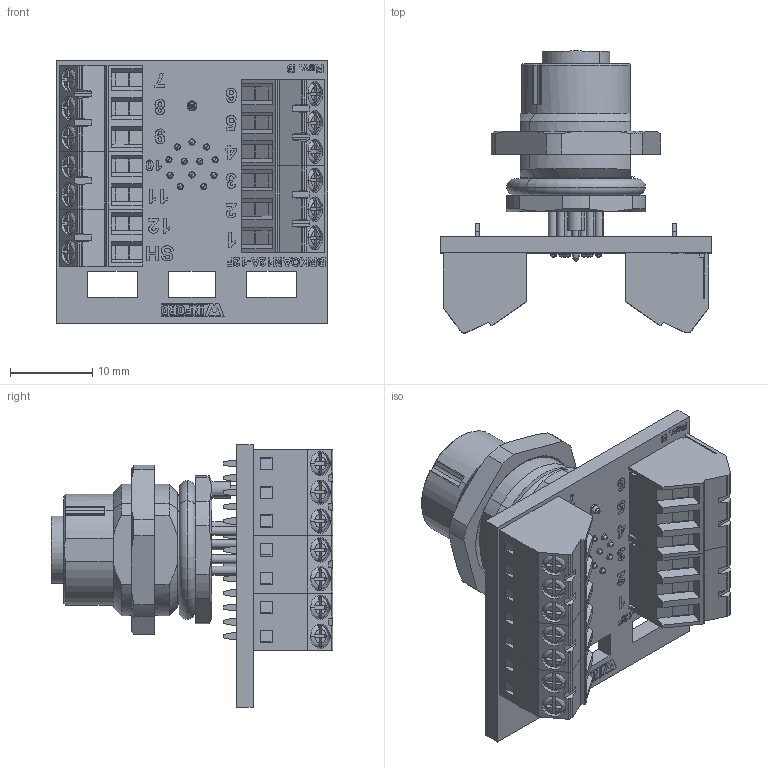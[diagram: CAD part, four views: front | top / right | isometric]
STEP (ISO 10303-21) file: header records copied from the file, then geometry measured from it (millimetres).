
FILE_DESCRIPTION (( 'STEP AP214' ), '1' );
FILE_NAME ('brkqam12a-12f-a_rev_b.step', '2023-03-03T17:53:49', ( '' ), ( '' ), 'SwSTEP 2.0', 'SolidWorks 2018', '' );
FILE_SCHEMA (( 'AUTOMOTIVE_DESIGN' ));
Length unit declared in the file: inch
Products named in the file (5): M12 12 Pin female Connector; three_position_angled_green_screw_treminal; brkqam12a-12f_pcb; brkqam12a-12f-a_rev_b; two_position_angled_green_screw_treminal
Assembly tree (7 placements, depth 2):
  brkqam12a-12f-a_rev_b
    brkqam12a-12f_pcb
    M12 12 Pin female Connector
    three_position_angled_green_screw_treminal  x3
    two_position_angled_green_screw_treminal  x2
Bounding box: 33.02 x 34.26 x 31.92 mm (x, y, z)
Volume: 8636.6 mm3; surface area: 9143.8 mm2
Topology: 7 solids, 14 shells, 3413 faces, 9060 edges, 5924 vertices
Faces by surface type: plane 2341, bspline 454, cylinder 380, torus 117, cone 97, sphere 24
Entity records: 134197 total; most frequent: CARTESIAN_POINT 41571, ORIENTED_EDGE 13746, DIRECTION 10947, EDGE_CURVE 6873, VECTOR 5009, LINE 5009, VERTEX_POINT 4516, AXIS2_PLACEMENT_3D 2969
